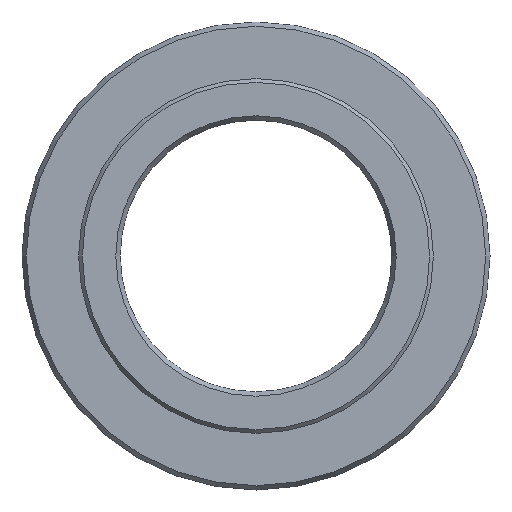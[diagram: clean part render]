
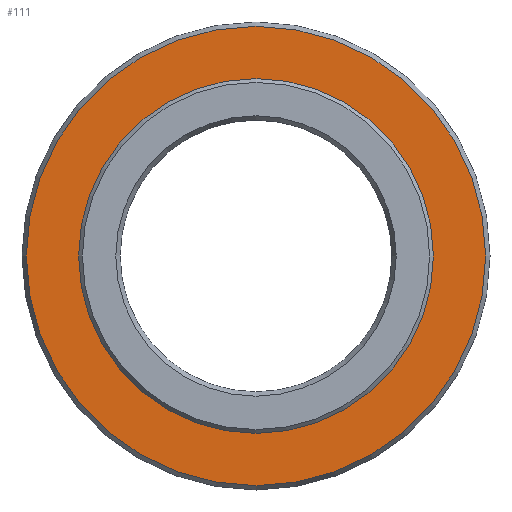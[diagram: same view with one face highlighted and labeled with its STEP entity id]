
A CAD part, left-side view. The second image highlights one B-rep face of the part: STEP entity #111.
In plain terms, the highlighted planar face has unit normal (-1, 0, 0).
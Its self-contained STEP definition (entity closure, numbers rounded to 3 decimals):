
#97=PLANE('',#323);
#111=ADVANCED_FACE('',(#144,#145),#97,.T.);
#144=FACE_BOUND('',#175,.T.);
#145=FACE_BOUND('',#176,.T.);
#175=EDGE_LOOP('',(#214));
#176=EDGE_LOOP('',(#215));
#214=ORIENTED_EDGE('',*,*,#279,.T.);
#215=ORIENTED_EDGE('',*,*,#280,.T.);
#258=VERTEX_POINT('',#461);
#259=VERTEX_POINT('',#463);
#279=EDGE_CURVE('',#258,#258,#298,.T.);
#280=EDGE_CURVE('',#259,#259,#299,.T.);
#298=CIRCLE('',#321,30.423);
#299=CIRCLE('',#322,23.5);
#321=AXIS2_PLACEMENT_3D('',#460,#369,#370);
#322=AXIS2_PLACEMENT_3D('',#462,#371,#372);
#323=AXIS2_PLACEMENT_3D('',#464,#373,#374);
#369=DIRECTION('',(-1.,0.,0.));
#370=DIRECTION('',(0.,0.,1.));
#371=DIRECTION('',(1.,0.,0.));
#372=DIRECTION('',(0.,0.,-1.));
#373=DIRECTION('',(-1.,0.,0.));
#374=DIRECTION('',(0.,0.,1.));
#460=CARTESIAN_POINT('',(0.,0.,0.));
#461=CARTESIAN_POINT('',(0.,0.,30.423));
#462=CARTESIAN_POINT('',(0.,0.,0.));
#463=CARTESIAN_POINT('',(0.,0.,-23.5));
#464=CARTESIAN_POINT('',(0.,31.,0.));
